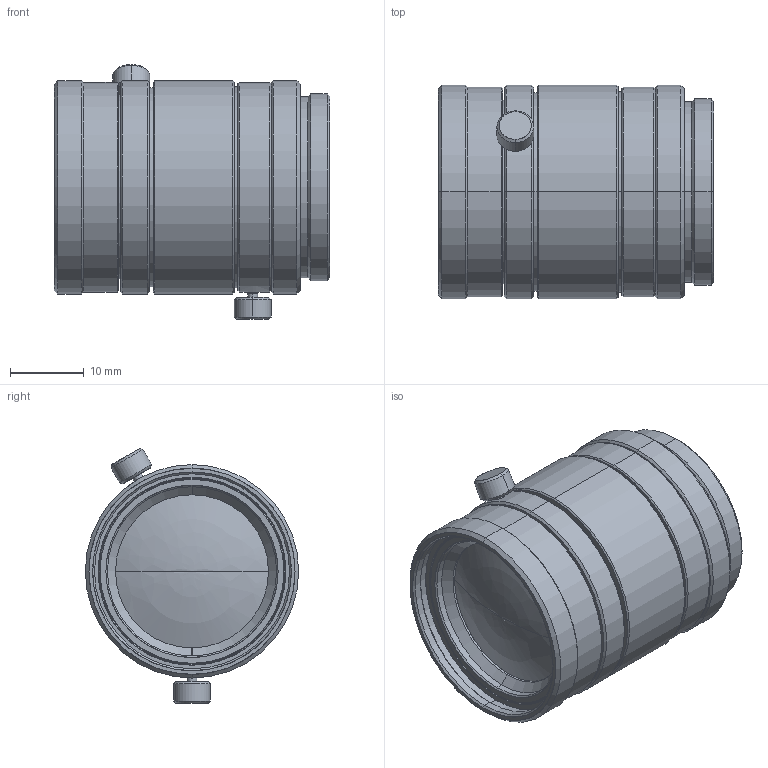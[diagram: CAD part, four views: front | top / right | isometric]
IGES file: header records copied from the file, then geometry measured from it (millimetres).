
Start section: SolidWorks IGES file using analytic representation for surfaces
Global section: file name: \\192.168.1.203\Development\06 俠俠俿倁儗儞僘\01 SV-V series\035 SV-3518V\3D\SV-3518V.IGS; native system: SolidWorks 2012; preprocessor: SolidWorks 2012; author: a-3DCAD2; date: 120601.160309; units: millimetre
Bounding box: 37.5 x 29 x 34.63 mm (x, y, z)
Surface area: 6301 mm2 (no closed solid volume)
Topology: 0 solids, 0 shells, 139 faces, 2056 edges, 2054 vertices
Faces by surface type: revolution 119, bspline 20
